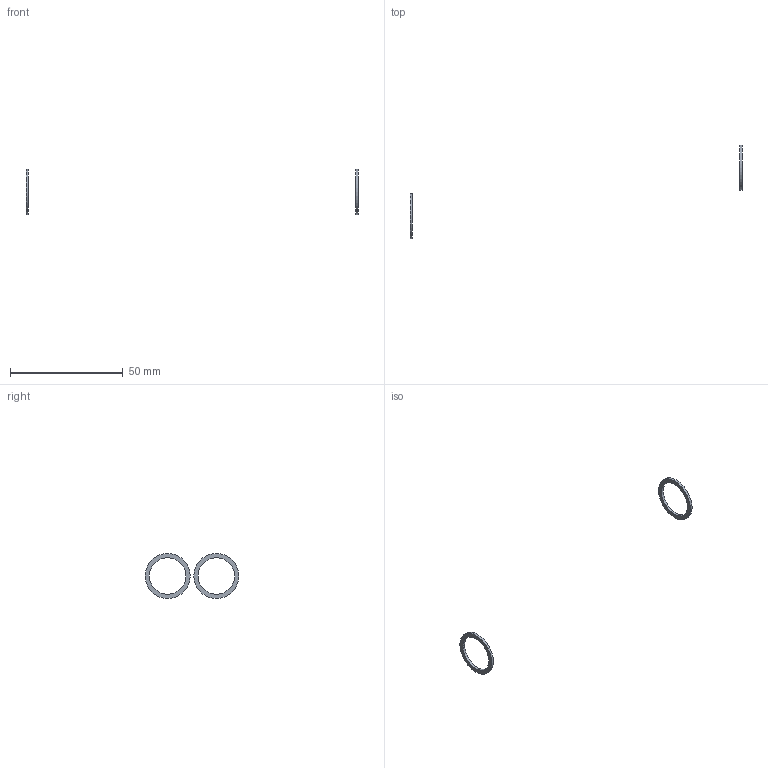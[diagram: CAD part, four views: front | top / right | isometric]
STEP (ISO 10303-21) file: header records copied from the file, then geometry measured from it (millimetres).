
FILE_DESCRIPTION(('Open CASCADE Model'),'2;1');
FILE_NAME('drag_rings','2000-01-01T00:00:00',('Author'),('Open CASCADE') ,'Open CASCADE STEP processor 7.9','cadgen','Unknown');
FILE_SCHEMA(('AUTOMOTIVE_DESIGN { 1 0 10303 214 1 1 1 1 }'));
Length unit declared in the file: millimetre
Products named in the file (2): drag_rings; WH_felt_drag_RING_ENVELOPE_NOT_FDM
Assembly tree (2 placements, depth 2):
  drag_rings
    WH_felt_drag_RING_ENVELOPE_NOT_FDM  x2
Bounding box: 147.2 x 41.6 x 20 mm (x, y, z)
Volume: 237.7 mm3; surface area: 682.4 mm2
Topology: 2 solids, 2 shells, 8 faces, 12 edges, 8 vertices
Faces by surface type: cylinder 4, plane 4
Full cylindrical faces by diameter (mm): 16.2 x2, 20 x2
Entity records: 251 total; most frequent: DIRECTION 36, CARTESIAN_POINT 29, ORIENTED_EDGE 12, PCURVE 12, DEFINITIONAL_REPRESENTATION 12, AXIS2_PLACEMENT_3D 11, LINE 10, VECTOR 10
